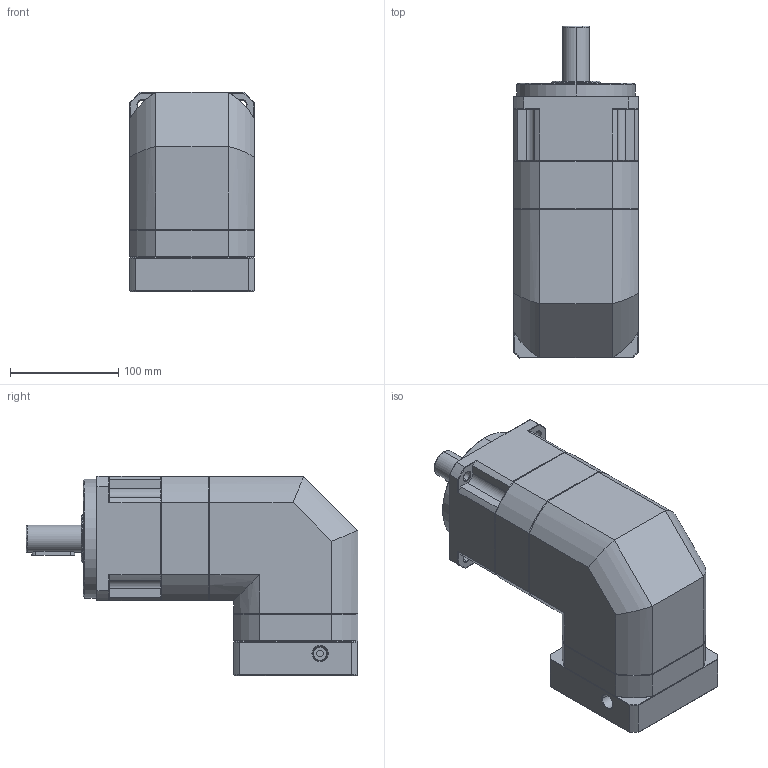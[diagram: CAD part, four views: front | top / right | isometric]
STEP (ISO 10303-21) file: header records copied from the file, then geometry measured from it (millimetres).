
FILE_DESCRIPTION (( 'STEP AP214' ), '1' );
FILE_NAME ('ZPBR115-D25-L2-P1-24-95-115-M6.step', '2024-06-29T08:01:24', ( 'Windows 蚚誧' ), ( 'Organization' ), 'SwSTEP 2.0', 'SolidWorks 2016', '' );
FILE_SCHEMA (( 'AUTOMOTIVE_DESIGN' ));
Length unit declared in the file: millimetre
Products named in the file (1): ZPBR115-D25-L2-P1-24-95-115-M6
Bounding box: 115 x 307 x 184.2 mm (x, y, z)
Surface area: 197151 mm2 (no closed solid volume)
Topology: 0 solids, 29 shells, 1846 faces, 4962 edges, 3175 vertices
Faces by surface type: plane 944, bspline 381, cone 286, cylinder 235
Full cylindrical faces by diameter (mm): 10.2 x1
Entity records: 99409 total; most frequent: CARTESIAN_POINT 49118, ORIENTED_EDGE 9894, DIRECTION 7597, EDGE_CURVE 4956, LINE 3203, VECTOR 3203, VERTEX_POINT 3173, AXIS2_PLACEMENT_3D 2197
